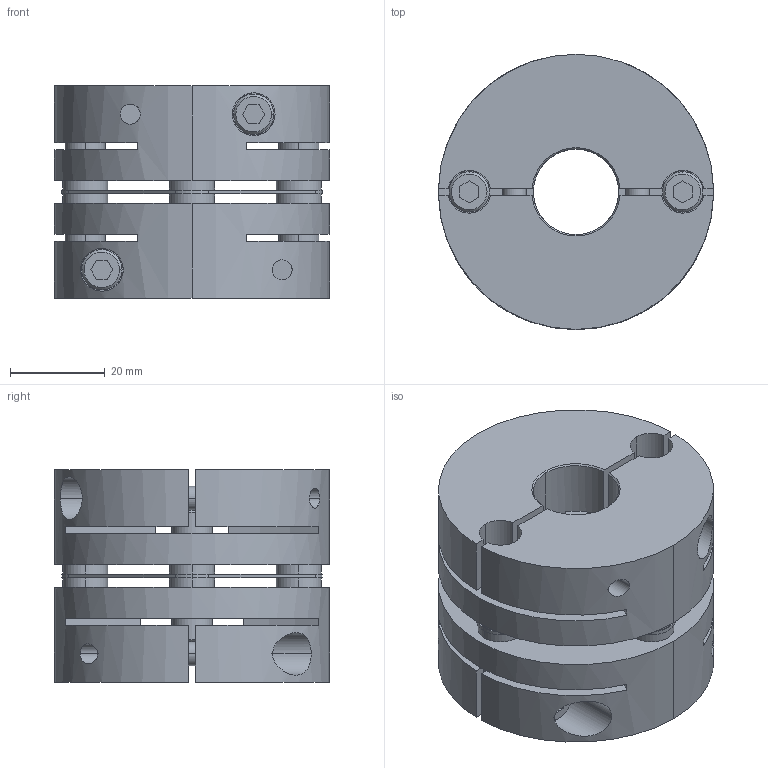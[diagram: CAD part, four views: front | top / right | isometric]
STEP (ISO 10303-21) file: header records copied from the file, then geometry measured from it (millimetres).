
FILE_DESCRIPTION((''),'2;1');
FILE_NAME('LAS-58C-18×24.stp','2015-10-15T14:54:15',(''),(''),'AutoCAD STEP 2000i','AutoCAD 2000i',', , ');
FILE_SCHEMA(('CONFIG_CONTROL_DESIGN'));
Length unit declared in the file: millimetre
Products named in the file (6): LAS-58C-12×19; 忣兜1; LA-5802-D19; LA-5802-D12-1; LA-5802-D12; LAS58-ITA
Assembly tree (5 placements, depth 2):
  LAS-58C-12×19
    忣兜1
    LA-5802-D19
    LA-5802-D12-1
    LA-5802-D12
    LAS58-ITA
Bounding box: 58 x 58 x 44.8 mm (x, y, z)
Volume: 82667.4 mm3; surface area: 32751.1 mm2
Topology: 1 solids, 1 shells, 238 faces, 618 edges, 404 vertices
Faces by surface type: plane 114, cylinder 96, cone 28
Entity records: 8213 total; most frequent: CARTESIAN_POINT 1988, DIRECTION 1316, ORIENTED_EDGE 1240, EDGE_CURVE 620, AXIS2_PLACEMENT_3D 484, VERTEX_POINT 404, VECTOR 348, LINE 348
